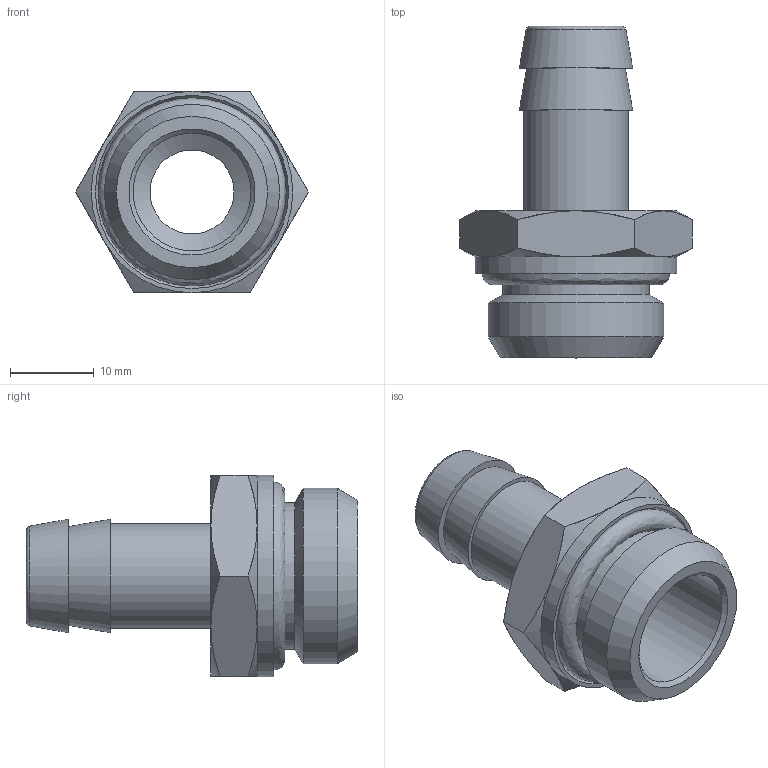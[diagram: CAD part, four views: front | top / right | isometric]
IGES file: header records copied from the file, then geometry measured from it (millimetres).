
Start section: SolidWorks IGES file using analytic representation for surfaces
Global section: file name: C:\Users\Cad05\Desktop\3044\0304400016A.IGS; native system: SolidWorks 2012; preprocessor: SolidWorks 2012; author: cad05; date: 131120.180724; units: millimetre
Bounding box: 27.71 x 39.5 x 24 mm (x, y, z)
Surface area: 4981.3 mm2 (no closed solid volume)
Topology: 0 solids, 0 shells, 42 faces, 170 edges, 146 vertices
Faces by surface type: revolution 29, bspline 13
